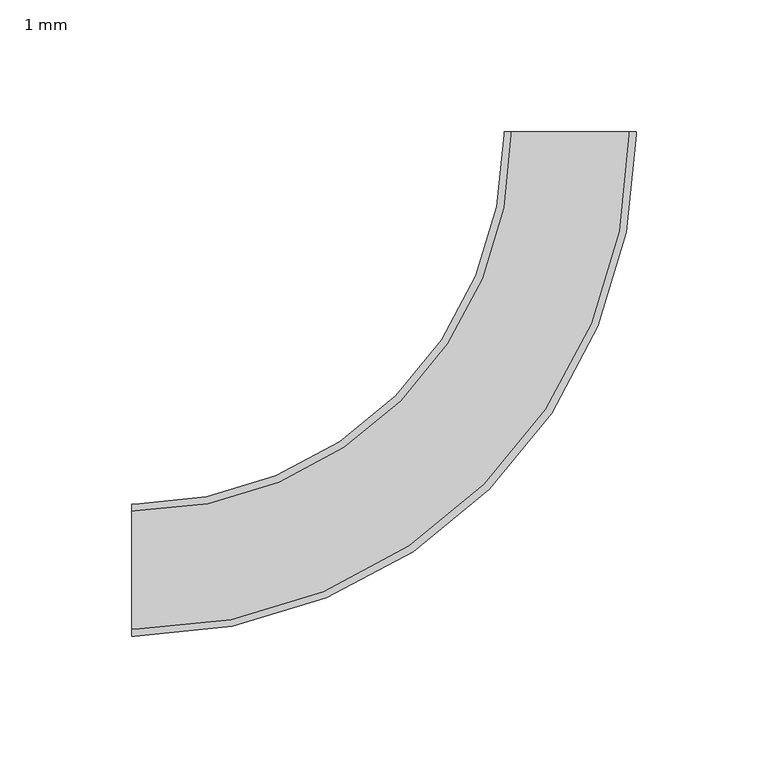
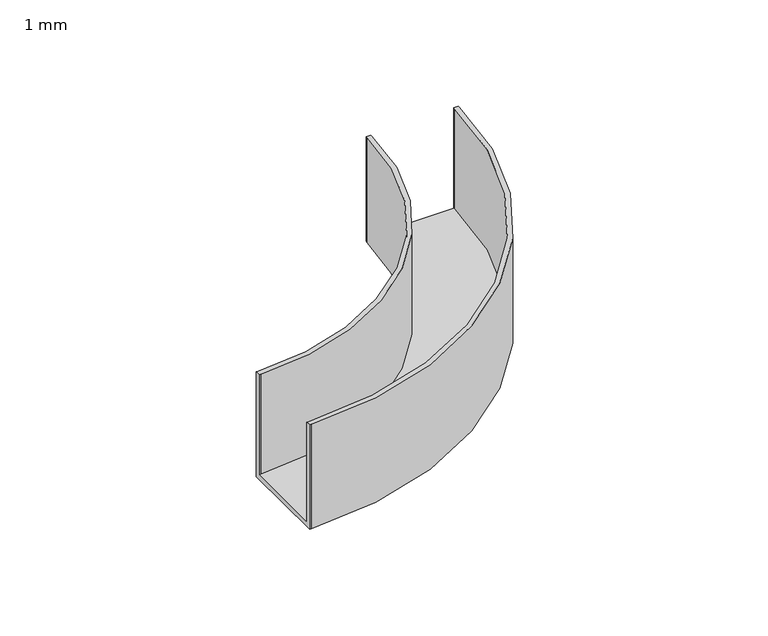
"""IFC4 building model written with IfcOpenShell, lengths in millimetres: cable carrier fitting geometry, BAKS_Kolano_koryta E90 (R140) : 1 mm."""

import ifcopenshell
import ifcopenshell.guid

model = None  # the IFC model being written
_history = None  # IfcOwnerHistory: only IFC2X3 demands one
_inside = {}  # id of a spatial element -> (the spatial element, [elements in it])
_under = {}  # id of a project, library or spatial element -> (it, [spatial elements below it])
_declared = {}  # id of a project -> (the project, [libraries it declares])
_typed = {}  # id of a type object -> (the type object, [elements of that type])
_made_of = {}  # id of a material, layer set ... -> (it, [elements and type objects made of it])


def new_model(schema):
    """Start an empty IFC model of exactly this schema.

    Asked for "IFC4X3", IfcOpenShell would pick the latest addendum, in which some entities
    have other attributes; the version numbers below select the first issue.
    IFC2X3 requires an IfcOwnerHistory on every rooted entity: one is made here for all.
    """
    global model, _history
    if schema == "IFC4X3":
        model = ifcopenshell.file(schema_version=(4, 3, 0, 0))
    else:
        model = ifcopenshell.file(schema=schema)
    _inside.clear()
    _under.clear()
    _declared.clear()
    _typed.clear()
    _made_of.clear()
    _history = None
    if model.schema == "IFC2X3":
        org = make("IfcOrganization", Name="unknown")
        user = make(
            "IfcPersonAndOrganization",
            ThePerson=make("IfcPerson", FamilyName="unknown"),
            TheOrganization=org,
        )
        app = make(
            "IfcApplication",
            ApplicationDeveloper=org,
            Version="unknown",
            ApplicationFullName="unknown",
            ApplicationIdentifier="unknown",
        )
        _history = make(
            "IfcOwnerHistory",
            OwningUser=user,
            OwningApplication=app,
            ChangeAction="ADDED",
            CreationDate=0,
        )
    return model


def make(cls, **values):
    """One entity of the class cls with the attributes given. An attribute that is None is left unset."""
    return model.create_entity(
        cls, **{name: value for name, value in values.items() if value is not None}
    )


def rooted(cls, **values):
    """An entity with a GlobalId (a new one), such as an element, a storey or a relation."""
    return make(cls, GlobalId=ifcopenshell.guid.new(), OwnerHistory=_history, **values)


def si_unit(unit_type, name, prefix=None):
    """IfcSIUnit, for example si_unit("LENGTHUNIT", "METRE", prefix="MILLI")."""
    return make("IfcSIUnit", UnitType=unit_type, Prefix=prefix, Name=name)


def assignment(units):
    """IfcUnitAssignment: the units of a project."""
    return None if units is None else make("IfcUnitAssignment", Units=units)


def point(xyz):
    """IfcCartesianPoint."""
    return None if xyz is None else make("IfcCartesianPoint", Coordinates=xyz)


def direction(xyz):
    """IfcDirection."""
    return None if xyz is None else make("IfcDirection", DirectionRatios=xyz)


def frame(location, z_axis=None, x_axis=None):
    """IfcAxis2Placement3D, a coordinate frame: its origin and axes. An axis left out is left unset."""
    return make(
        "IfcAxis2Placement3D",
        Location=point(location),
        Axis=direction(z_axis),
        RefDirection=direction(x_axis),
    )


def origin():
    """The frame at (0, 0, 0) with its axes left unset."""
    return frame((0.0, 0.0, 0.0))


def place(relative_to, where):
    """IfcLocalPlacement: puts the frame where relative to a parent placement (None: the world)."""
    return make(
        "IfcLocalPlacement", PlacementRelTo=relative_to, RelativePlacement=where
    )


def context(
    kind, dimensions, precision=None, world=None, true_north=None, identifier=None
):
    """IfcGeometricRepresentationContext, for example the 3D "Model" context."""
    return make(
        "IfcGeometricRepresentationContext",
        ContextIdentifier=identifier,
        ContextType=kind,
        CoordinateSpaceDimension=dimensions,
        Precision=precision,
        WorldCoordinateSystem=world,
        TrueNorth=true_north,
    )


def project(units=None, contexts=None):
    """IfcProject with its units and contexts."""
    return rooted(
        "IfcProject",
        Name="project",
        RepresentationContexts=contexts,
        UnitsInContext=assignment(units),
    )


def spatial(cls, under=None, at=None, **own):
    """A site, building, storey or space (cls), placed at a placement, below another one or the project."""
    s = rooted(cls, ObjectPlacement=at, **own)
    if under is not None:
        _under.setdefault(under.id(), (under, []))[1].append(s)
    return s


def polyline(points):
    """IfcPolyline through the points."""
    return make("IfcPolyline", Points=[point(p) for p in points])


def circle_curve(where, radius):
    """IfcCircle in the frame where."""
    return make("IfcCircle", Position=where, Radius=radius)


def shape(context_of_items, identifier, shape_type, items):
    """IfcShapeRepresentation: the items that make up one representation, for example the "Body"."""
    return make(
        "IfcShapeRepresentation",
        ContextOfItems=context_of_items,
        RepresentationIdentifier=identifier,
        RepresentationType=shape_type,
        Items=items,
    )


def source(mapping_origin, context_of_items, identifier, shape_type, items):
    """IfcRepresentationMap: a shape defined once, which mapped items show again and again."""
    return make(
        "IfcRepresentationMap",
        MappingOrigin=mapping_origin,
        MappedRepresentation=shape(context_of_items, identifier, shape_type, items),
    )


def transform(
    local_origin,
    x_axis=None,
    y_axis=None,
    z_axis=None,
    scale=None,
    scale2=None,
    scale3=None,
    uniform=True,
):
    """IfcCartesianTransformationOperator3D, or its non-uniform kind. x_axis, y_axis, z_axis: its Axis1, 2, 3."""
    if uniform:
        return make(
            "IfcCartesianTransformationOperator3D",
            Axis1=direction(x_axis),
            Axis2=direction(y_axis),
            LocalOrigin=point(local_origin),
            Scale=scale,
            Axis3=direction(z_axis),
        )
    return make(
        "IfcCartesianTransformationOperator3DnonUniform",
        Axis1=direction(x_axis),
        Axis2=direction(y_axis),
        LocalOrigin=point(local_origin),
        Scale=scale,
        Axis3=direction(z_axis),
        Scale2=scale2,
        Scale3=scale3,
    )


def mapped(mapping_source, mapping_target):
    """IfcMappedItem: shows the shape of a source again, moved by a transform."""
    return make(
        "IfcMappedItem", MappingSource=mapping_source, MappingTarget=mapping_target
    )


def made_of(thing, what):
    """Note that an element or type object is made of a material, layer set ...; save() writes the relation."""
    if what is not None:
        _made_of.setdefault(what.id(), (what, []))[1].append(thing)
    return thing


def element(
    cls,
    number,
    at=None,
    inside=None,
    cuts=None,
    type_object=None,
    material=None,
    context=None,
    identifier="Body",
    shape_type=None,
    held_by="IfcProductDefinitionShape",
    body=None,
    shapes=None,
    **own,
):
    """One element of the class cls, such as IfcWall. Its Tag is "e" and its number.

    at: its placement. inside: the storey or other place that contains it. cuts: it is an
    opening in that element (IfcRelVoidsElement). A single representation is given by context,
    identifier, shape_type and body (its items); several are given by shapes. held_by: the class
    of the entity that holds the representations. save() writes the other relations.
    """
    e = rooted(cls, Tag="e%d" % number, ObjectPlacement=at, **own)
    if body is not None:
        shapes = [shape(context, identifier, shape_type, body)]
    if shapes is not None:
        e.Representation = make(held_by, Representations=shapes)
    if inside is not None:
        _inside.setdefault(inside.id(), (inside, []))[1].append(e)
    if cuts is not None:
        rooted(
            "IfcRelVoidsElement", RelatingBuildingElement=cuts, RelatedOpeningElement=e
        )
    if type_object is not None:
        _typed.setdefault(type_object.id(), (type_object, []))[1].append(e)
    return made_of(e, material)


def aggregate(whole, parts):
    """IfcRelAggregates: a whole, such as a stair, and the parts it consists of."""
    return rooted("IfcRelAggregates", RelatingObject=whole, RelatedObjects=parts)


def save(model, path):
    """Write the relations noted so far, then the file.

    IfcRelAggregates (storeys below a building ...), IfcRelContainedInSpatialStructure (elements
    in a storey), IfcRelDefinesByType, IfcRelAssociatesMaterial and IfcRelDeclares: one each for
    every whole, place, type object, material and project.
    """
    for whole, parts in _under.values():
        aggregate(whole, parts)
    for where, things in _inside.values():
        rooted(
            "IfcRelContainedInSpatialStructure",
            RelatedElements=things,
            RelatingStructure=where,
        )
    for kind, things in _typed.values():
        rooted("IfcRelDefinesByType", RelatedObjects=things, RelatingType=kind)
    for what, things in _made_of.values():
        rooted("IfcRelAssociatesMaterial", RelatedObjects=things, RelatingMaterial=what)
    for by, libraries in _declared.values():
        rooted("IfcRelDeclares", RelatingContext=by, RelatedDefinitions=libraries)
    model.write(path)


def plane_surface(at):
    """IfcPlane: the flat surface through the origin of the frame at, square to its z axis."""
    return make("IfcPlane", Position=at)


def cylinder_surface(at, radius):
    """IfcCylindricalSurface: all points at the distance radius from the z axis of the frame at."""
    return make("IfcCylindricalSurface", Position=at, Radius=radius)


def revolved_surface(curve, axis_point, axis_direction):
    """IfcSurfaceOfRevolution: the curve turned about the line through axis_point along axis_direction."""
    return make(
        "IfcSurfaceOfRevolution",
        SweptCurve=make("IfcArbitraryOpenProfileDef", ProfileType="CURVE", Curve=curve),
        AxisPosition=make("IfcAxis1Placement", Location=point(axis_point), Axis=direction(axis_direction)),
    )


def advanced_brep(points, edges, surfaces, faces):
    """IfcAdvancedBrep: a solid bounded by faces that lie on surfaces and meet in shared edges.

    An edge is (start, end): straight between two places in points (the first is 0);
    or (start, end, curve); or (start, end, curve, False) where it runs against its curve.
    A face is (place in surfaces, loops), or (place, loops, False) where it looks against
    its surface's normal. A loop lists edges by number (the first is 1), with a minus sign
    where the edge is run from its end to its start. The first loop is the outer one.
    """
    corners = [point(p) for p in points]
    vertices = [make("IfcVertexPoint", VertexGeometry=c) for c in corners]
    made = []
    for start, end, *more in edges:
        made.append(
            make(
                "IfcEdgeCurve",
                EdgeStart=vertices[start],
                EdgeEnd=vertices[end],
                EdgeGeometry=more[0] if more else make("IfcPolyline", Points=[corners[start], corners[end]]),
                SameSense=more[1] if len(more) > 1 else True,
            )
        )
    hull = []
    for where, loops, *sense in faces:
        bounds = []
        for j, loop in enumerate(loops):
            ring = [make("IfcOrientedEdge", EdgeElement=made[abs(k) - 1], Orientation=k > 0) for k in loop]
            bounds.append(
                make(
                    "IfcFaceOuterBound" if j == 0 else "IfcFaceBound",
                    Bound=make("IfcEdgeLoop", EdgeList=ring),
                    Orientation=True,
                )
            )
        hull.append(make("IfcAdvancedFace", Bounds=bounds, FaceSurface=surfaces[where], SameSense=sense[0] if sense else True))
    return make("IfcAdvancedBrep", Outer=make("IfcClosedShell", CfsFaces=hull))


def cable_carrier_fitting_1_mm_52b8fae2(model_context):
    return source(origin(), model_context, "Body", "AdvancedBrep", [
        advanced_brep(
        [(-166.0, -25.0, -30.0), (-166.0, -25.0, 30.0), (-166.0, -22.46, 30.0), (-166.0, -22.46, -27.46), (-166.0, 22.46, -27.46), (-166.0, 22.46, 30.0), (-166.0, 25.0, 30.0), (-166.0, 25.0, -30.0), (25.0, 166.0, -30.0), (-25.0, 166.0, -30.0), (-25.0, 166.0, 30.0), (-22.46, 166.0, 30.0), (-22.46, 166.0, -27.46), (22.46, 166.0, -27.46), (22.46, 166.0, 30.0), (25.0, 166.0, 30.0), (-165.0, -25.0, -30.0), (-165.0, -25.0, 30.0), (25.0, 165.0, 30.0), (22.46, 165.0, 30.0), (-165.0, -22.46, 30.0), (-165.0, -22.46, -27.46), (22.46, 165.0, -27.46), (-22.46, 165.0, -27.46), (-165.0, 22.46, -27.46), (-165.0, 22.46, 30.0), (-22.46, 165.0, 30.0), (-25.0, 165.0, 30.0), (-165.0, 25.0, 30.0), (-165.0, 25.0, -30.0), (-25.0, 165.0, -30.0), (25.0, 165.0, -30.0)],
        [
            (0, 1),
            (1, 2),
            (2, 3),
            (3, 4),
            (4, 5),
            (5, 6),
            (6, 7),
            (7, 0),
            (8, 9),
            (9, 10),
            (10, 11),
            (11, 12),
            (12, 13),
            (13, 14),
            (14, 15),
            (15, 8),
            (0, 16),
            (16, 17),
            (17, 1),
            (17, 18, circle_curve(frame((-165.0, 165.0, 30.0), z_axis=(0.0, 0.0, 1.0), x_axis=(0.0, -1.0, 0.0)), 190.0)),
            (18, 15),
            (14, 19),
            (19, 20, circle_curve(frame((-165.0, 165.0, 30.0), z_axis=(0.0, 0.0, -1.0), x_axis=(0.0, -1.0, 0.0)), 187.46)),
            (20, 2),
            (20, 21),
            (21, 3),
            (21, 22, circle_curve(frame((-165.0, 165.0, -27.46), z_axis=(0.0, 0.0, 1.0), x_axis=(0.0, -1.0, 0.0)), 187.46)),
            (22, 13),
            (12, 23),
            (23, 24, circle_curve(frame((-165.0, 165.0, -27.46), z_axis=(0.0, 0.0, -1.0), x_axis=(0.0, -1.0, 0.0)), 142.54)),
            (24, 4),
            (24, 25),
            (25, 5),
            (25, 26, circle_curve(frame((-165.0, 165.0, 30.0), z_axis=(0.0, 0.0, 1.0), x_axis=(0.0, -1.0, 0.0)), 142.54)),
            (26, 11),
            (10, 27),
            (27, 28, circle_curve(frame((-165.0, 165.0, 30.0), z_axis=(0.0, 0.0, -1.0), x_axis=(0.0, -1.0, 0.0)), 140.0)),
            (28, 6),
            (28, 29),
            (29, 7),
            (29, 30, circle_curve(frame((-165.0, 165.0, -30.0), z_axis=(0.0, 0.0, 1.0), x_axis=(0.0, -1.0, 0.0)), 140.0)),
            (30, 9),
            (8, 31),
            (31, 16, circle_curve(frame((-165.0, 165.0, -30.0), z_axis=(0.0, 0.0, -1.0), x_axis=(0.0, -1.0, 0.0)), 190.0)),
            (31, 18),
            (19, 22),
            (23, 26),
            (27, 30),
        ],
        [
            plane_surface(frame((-166.0, 0.0, 0.0), z_axis=(-1.0, -4.906741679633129e-12, 0.0), x_axis=(0.0, 0.0, 1.0))),
            plane_surface(frame((0.0, 166.0, 0.0), z_axis=(0.0, 1.0, 0.0), x_axis=(0.0, 0.0, 1.0))),
            plane_surface(frame((-166.0, -25.0, -30.0), z_axis=(4.91097162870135e-12, -1.0, 0.0), x_axis=(1.0, 4.91097162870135e-12, 0.0))),
            plane_surface(frame((-166.0, -25.0, 30.0), z_axis=(0.0, 0.0, 1.0), x_axis=(1.0, 4.91097162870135e-12, 0.0))),
            plane_surface(frame((-166.0, -22.46, 30.0), z_axis=(-4.906741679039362e-12, 1.0, 0.0), x_axis=(1.0, 4.906741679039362e-12, 0.0))),
            plane_surface(frame((-166.0, -22.46, -27.46), z_axis=(0.0, 0.0, 1.0), x_axis=(1.0, 4.902511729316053e-12, 0.0))),
            plane_surface(frame((-166.0, 22.46, -27.46), z_axis=(4.906741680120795e-12, -1.0, 0.0), x_axis=(1.0, 4.906741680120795e-12, 0.0))),
            plane_surface(frame((-166.0, 22.46, 30.0), z_axis=(0.0, 0.0, 1.0), x_axis=(1.0, 4.906741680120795e-12, 0.0))),
            plane_surface(frame((-166.0, 25.0, 30.0), z_axis=(-4.906741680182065e-12, 1.0, 0.0), x_axis=(1.0, 4.906741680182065e-12, 0.0))),
            plane_surface(frame((-166.0, 25.0, -30.0), z_axis=(0.0, 0.0, -1.0), x_axis=(1.0, 4.906741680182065e-12, 0.0))),
            cylinder_surface(frame((-165.0, 165.0, 0.0), z_axis=(0.0, 0.0, 1.0), x_axis=(0.0, -1.0, 0.0)), 190.0),
            revolved_surface(polyline([(-165.0, -22.460000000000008, 30.0), (-165.0, -22.460000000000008, -27.46)]), (-165.0, 165.0, 0.0), (0.0, 0.0, 1.0)),
            cylinder_surface(frame((-165.0, 165.0, 0.0), z_axis=(0.0, 0.0, 1.0), x_axis=(0.0, -1.0, 0.0)), 142.54),
            revolved_surface(polyline([(-165.0, 25.0, 30.0), (-165.0, 25.0, -30.0)]), (-165.0, 165.0, 0.0), (0.0, 0.0, 1.0)),
            plane_surface(frame((25.0, 165.0, -30.0), z_axis=(1.0, 0.0, 0.0), x_axis=(0.0, 1.0, 0.0))),
            plane_surface(frame((22.46, 165.0, 30.0), z_axis=(-1.0, 0.0, 0.0), x_axis=(0.0, 1.0, 0.0))),
            plane_surface(frame((-22.46, 165.0, -27.46), z_axis=(1.0, 0.0, 0.0), x_axis=(0.0, 1.0, 0.0))),
            plane_surface(frame((-25.0, 165.0, 30.0), z_axis=(-1.0, 0.0, 0.0), x_axis=(0.0, 1.0, 0.0))),
        ],
        [
            (0, [[1, 2, 3, 4, 5, 6, 7, 8]]),
            (1, [[9, 10, 11, 12, 13, 14, 15, 16]]),
            (2, [[-1, 17, 18, 19]]),
            (3, [[-2, -19, 20, 21, -15, 22, 23, 24]]),
            (4, [[-3, -24, 25, 26]]),
            (5, [[-4, -26, 27, 28, -13, 29, 30, 31]]),
            (6, [[-5, -31, 32, 33]]),
            (7, [[-6, -33, 34, 35, -11, 36, 37, 38]]),
            (8, [[-7, -38, 39, 40]]),
            (9, [[-8, -40, 41, 42, -9, 43, 44, -17]]),
            (10, [[-20, -18, -44, 45]]),
            (11, [[-27, -25, -23, 46]]),
            (12, [[-34, -32, -30, 47]]),
            (13, [[-41, -39, -37, 48]]),
            (14, [[-45, -43, -16, -21]]),
            (15, [[-46, -22, -14, -28]]),
            (16, [[-47, -29, -12, -35]]),
            (17, [[-48, -36, -10, -42]]),
        ],
    ),
    ])


if __name__ == "__main__":
    model = new_model("IFC4")
    model_context = context("Model", 3, world=origin())
    ifc_project = project(units=[si_unit("LENGTHUNIT", "METRE", prefix="MILLI")], contexts=[model_context])
    site = spatial("IfcSite", under=ifc_project)
    building = spatial("IfcBuilding", under=site)
    placement = place(None, origin())
    cable_carrier_fitting_1_mm_shape = cable_carrier_fitting_1_mm_52b8fae2(model_context)
    element("IfcCableCarrierFitting", 1, ObjectType="BAKS_Kolano_koryta E90 (R140) : 1 mm", at=placement, inside=building, context=model_context, shape_type="MappedRepresentation", body=[
        mapped(cable_carrier_fitting_1_mm_shape, transform((0.0, 0.0, 0.0), x_axis=(1.0, 0.0, 0.0), y_axis=(0.0, 1.0, 0.0), z_axis=(0.0, 0.0, 1.0))),
    ])
    save(model, "model.ifc")
